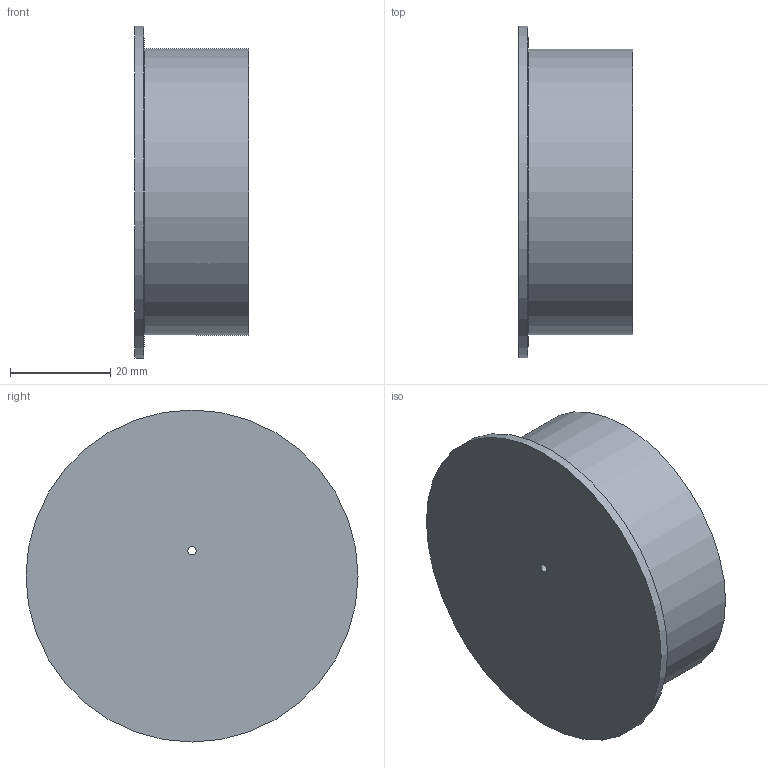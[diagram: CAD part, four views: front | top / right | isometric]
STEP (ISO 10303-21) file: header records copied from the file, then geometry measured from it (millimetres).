
FILE_DESCRIPTION( ('This file contains a STEP AP42 implementation' ,'as created by ZW3D STEP Interface translator.') ,'2;1' );
FILE_NAME( 'OGW-56.stp' ,'26 519. 74356', (''), ('ZWCAD Software Co.'), 'Version 1.0', 'ZW3D to STEP translator', '' );
FILE_SCHEMA(('AP242_MANAGED_MODEL_BASED_3D_ENGINEERING_MIM_LF { 1 0 10303 442 1 1 4 }'));
Length unit declared in the file: millimetre
Products named in the file (1): 0
Bounding box: 22.8 x 66.4 x 66.4 mm (x, y, z)
Volume: 9571.8 mm3; surface area: 14734.7 mm2
Topology: 1 solids, 1 shells, 8 faces, 12 edges, 8 vertices
Faces by surface type: cylinder 4, plane 4
Full cylindrical faces by diameter (mm): 1.7 x1, 55.4 x1, 57.2 x1, 66.4 x1
Entity records: 216 total; most frequent: DIRECTION 38, CARTESIAN_POINT 29, ORIENTED_EDGE 24, AXIS2_PLACEMENT_3D 17, EDGE_CURVE 12, EDGE_LOOP 12, VERTEX_POINT 8, CIRCLE 8
